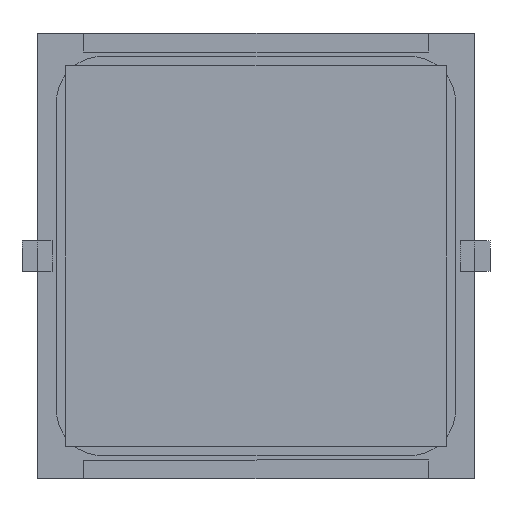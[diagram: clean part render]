
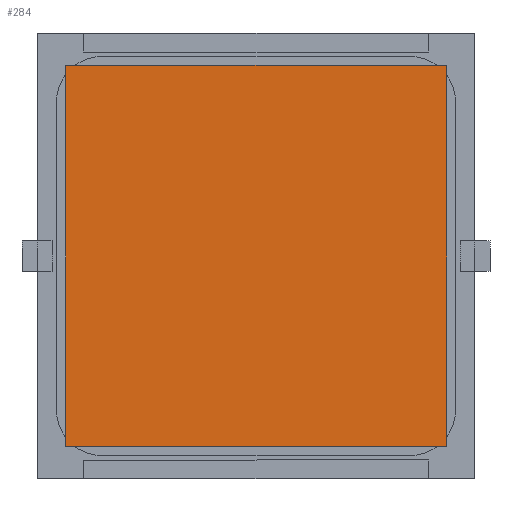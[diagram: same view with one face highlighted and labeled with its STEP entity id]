
A CAD part, front view. The second image highlights one B-rep face of the part: STEP entity #284.
In plain terms, the highlighted planar face has unit normal (0, -1, 0).
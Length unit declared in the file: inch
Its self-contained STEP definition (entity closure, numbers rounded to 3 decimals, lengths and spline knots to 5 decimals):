
#284 = ADVANCED_FACE ( 'NONE', ( #2122 ), #6607, .F. ) ;
#534 = DIRECTION ( 'NONE',  ( 0., 0., 1. ) ) ;
#878 = EDGE_LOOP ( 'NONE', ( #8873, #6090, #1703, #3039 ) ) ;
#1041 = VERTEX_POINT ( 'NONE', #4820 ) ;
#1544 = CARTESIAN_POINT ( 'NONE',  ( -0.5, -0.005, -0.5 ) ) ;
#1703 = ORIENTED_EDGE ( 'NONE', *, *, #6289, .F. ) ;
#1817 = CARTESIAN_POINT ( 'NONE',  ( 0.5, -0.005, -0.5 ) ) ;
#2122 = FACE_OUTER_BOUND ( 'NONE', #878, .T. ) ;
#2498 = EDGE_CURVE ( 'NONE', #1041, #10231, #7229, .T. ) ;
#2557 = DIRECTION ( 'NONE',  ( 1., 0., 0. ) ) ;
#3039 = ORIENTED_EDGE ( 'NONE', *, *, #2498, .F. ) ;
#3223 = VECTOR ( 'NONE', #10894, 39.37008 ) ;
#4732 = VECTOR ( 'NONE', #7889, 39.37008 ) ;
#4820 = CARTESIAN_POINT ( 'NONE',  ( -0.5, -0.005, 0.5 ) ) ;
#5080 = VERTEX_POINT ( 'NONE', #1817 ) ;
#5261 = EDGE_CURVE ( 'NONE', #5080, #7649, #10355, .T. ) ;
#5828 = CARTESIAN_POINT ( 'NONE',  ( 0.5, -0.005, 0.5 ) ) ;
#6055 = CARTESIAN_POINT ( 'NONE',  ( 0.5, -0.005, -0.5 ) ) ;
#6090 = ORIENTED_EDGE ( 'NONE', *, *, #5261, .F. ) ;
#6289 = EDGE_CURVE ( 'NONE', #10231, #5080, #6998, .T. ) ;
#6607 = PLANE ( 'NONE',  #11453 ) ;
#6998 = LINE ( 'NONE', #6055, #7864 ) ;
#7058 = CARTESIAN_POINT ( 'NONE',  ( -0.5, -0.005, 0.5 ) ) ;
#7201 = CARTESIAN_POINT ( 'NONE',  ( -0.5, -0.005, -0.5 ) ) ;
#7229 = LINE ( 'NONE', #7058, #9533 ) ;
#7613 = CARTESIAN_POINT ( 'NONE',  ( -0.5, -0.005, 0.5 ) ) ;
#7649 = VERTEX_POINT ( 'NONE', #10212 ) ;
#7846 = LINE ( 'NONE', #7201, #3223 ) ;
#7864 = VECTOR ( 'NONE', #9677, 39.37008 ) ;
#7889 = DIRECTION ( 'NONE',  ( -1., 0., 0. ) ) ;
#8873 = ORIENTED_EDGE ( 'NONE', *, *, #10981, .F. ) ;
#9533 = VECTOR ( 'NONE', #2557, 39.37008 ) ;
#9677 = DIRECTION ( 'NONE',  ( 0., 0., -1. ) ) ;
#10212 = CARTESIAN_POINT ( 'NONE',  ( -0.5, -0.005, -0.5 ) ) ;
#10231 = VERTEX_POINT ( 'NONE', #5828 ) ;
#10355 = LINE ( 'NONE', #1544, #4732 ) ;
#10412 = DIRECTION ( 'NONE',  ( 0., 1., 0. ) ) ;
#10894 = DIRECTION ( 'NONE',  ( 0., 0., 1. ) ) ;
#10981 = EDGE_CURVE ( 'NONE', #7649, #1041, #7846, .T. ) ;
#11453 = AXIS2_PLACEMENT_3D ( 'NONE', #7613, #10412, #534 ) ;
